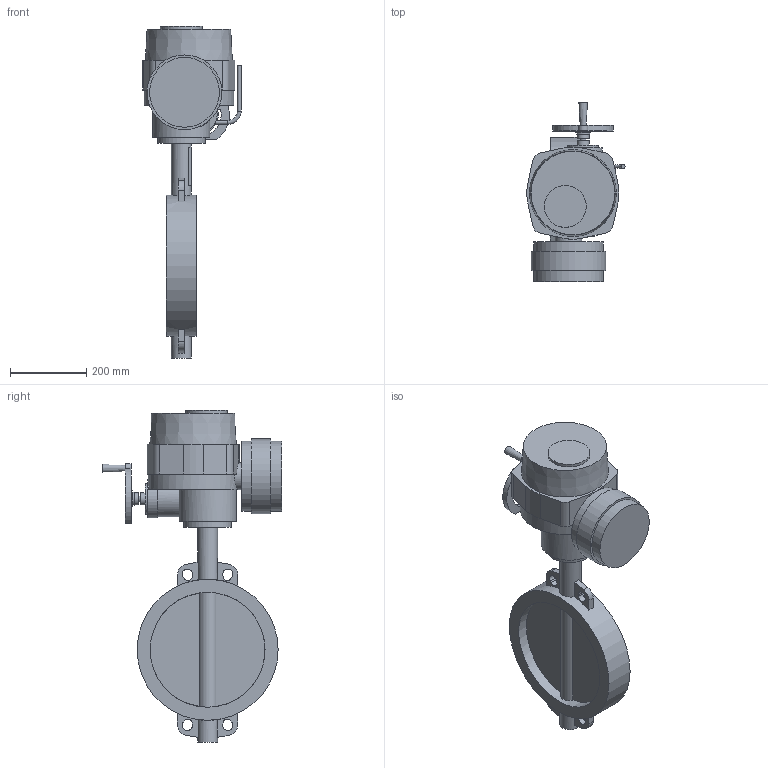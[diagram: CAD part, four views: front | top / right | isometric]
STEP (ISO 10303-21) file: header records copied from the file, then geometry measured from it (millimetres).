
FILE_DESCRIPTION(('STEP AP203'), '1');
FILE_NAME('Çàòâîð 017W.Z(÷óãóí) DN300+ÝÏ QT.A050', '', ('UNSPECIFIED'), ('UNSPECIFIED'), 'ASCON STEP Converter 1.6', 'ASCON Math Kernel', '');
FILE_SCHEMA(('CONFIG_CONTROL_DESIGN'));
Length unit declared in the file: millimetre
Bounding box: 257.68 x 472 x 871 mm (x, y, z)
Volume: 14315401.2 mm3; surface area: 947244.4 mm2
Topology: 1 solids, 2 shells, 905 faces, 2625 edges, 1694 vertices
Faces by surface type: cylinder 673, plane 228, cone 3, torus 1
Full cylindrical faces by diameter (mm): 6.7 x8, 10 x2, 12 x4, 16 x1, 31.6 x1, 32 x2, 35 x2, 52 x2, 70 x2, 80 x1, 100 x1, 110 x1, 125 x1, 150 x1, 183 x2, 196 x1, 301.5 x2, 370 x1
Entity records: 38980 total; most frequent: CARTESIAN_POINT 6631, DIRECTION 5796, ORIENTED_EDGE 5096, EDGE_CURVE 2587, AXIS2_PLACEMENT_3D 2333, VERTEX_POINT 1694, CIRCLE 1427, LINE 1130
